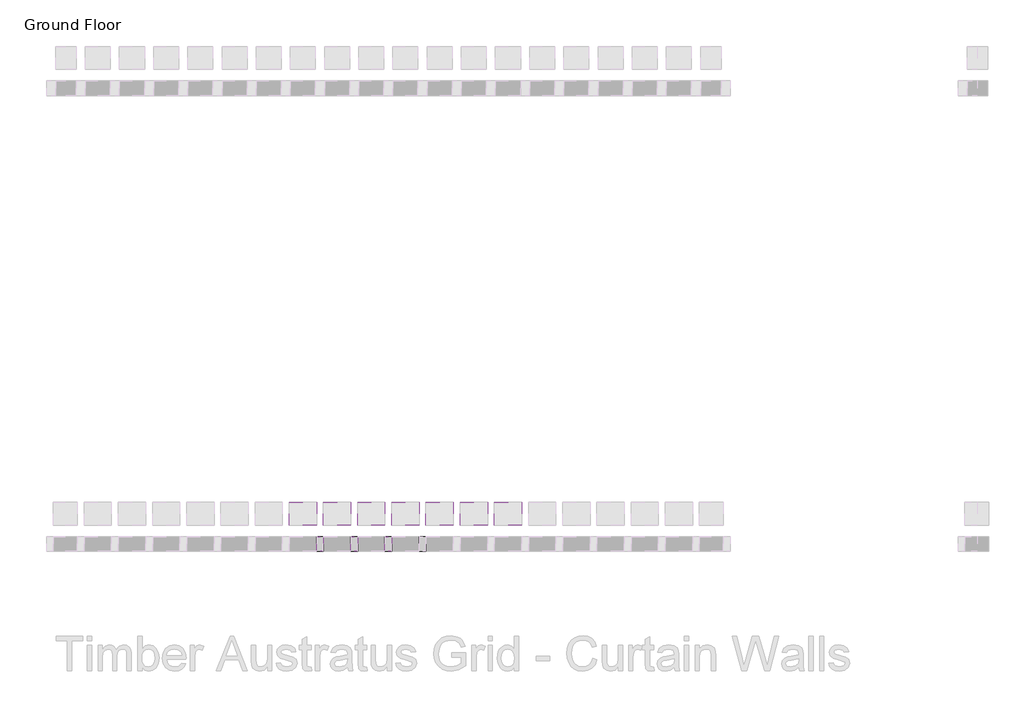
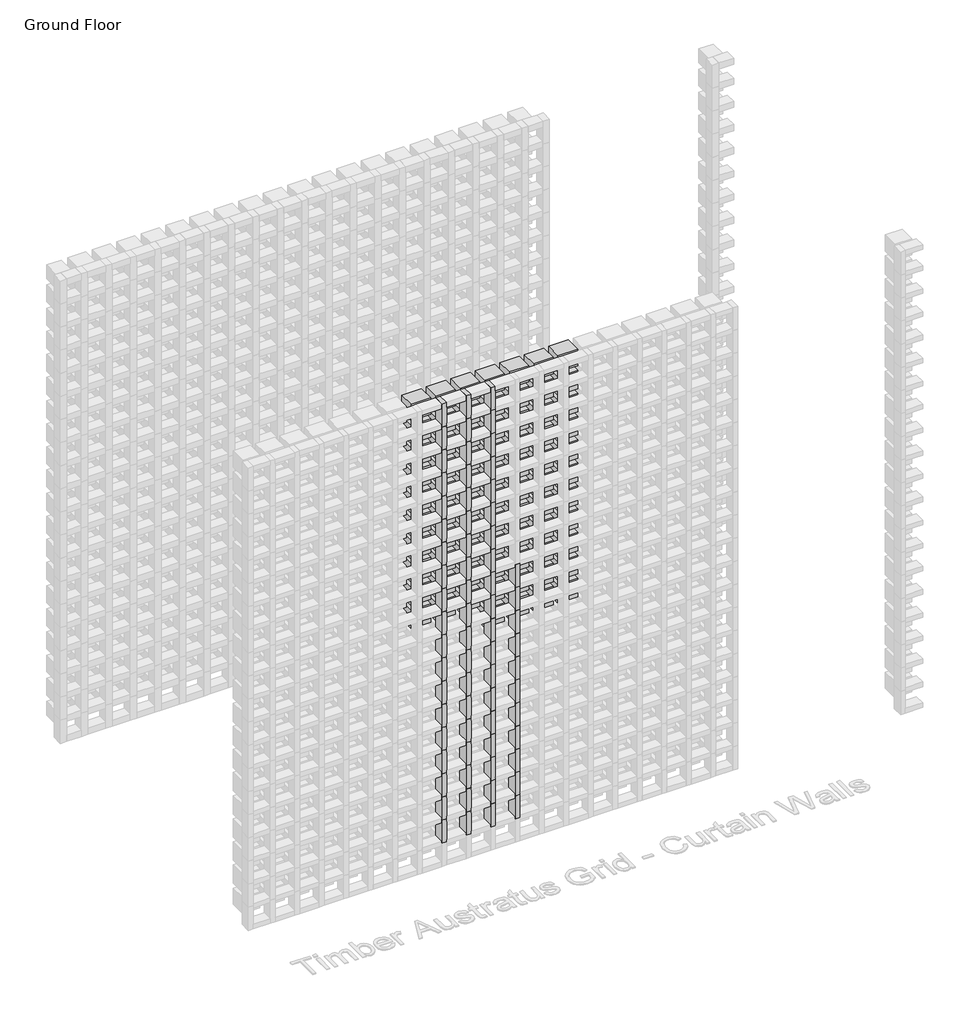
# One storey, part 50 of 350: 74 plates, 68 members.
"""IFC4 building model written with IfcOpenShell, lengths in millimetres."""

from ifc_helpers import new_model, si_unit, origin, place, context, project, spatial, transform, mapped, element, save
from components import rectangular_mullion_5b501421, empty_system_panel_empty_a57e421f, empty_system_panel_empty_fe50b430

model = new_model("IFC4")

# Units and contexts
model_context = context("Model", 3, world=origin())
ifc_project = project(units=[si_unit("LENGTHUNIT", "METRE", prefix="MILLI")], contexts=[model_context])

# Site, building, storey
site = spatial("IfcSite", under=ifc_project)
building = spatial("IfcBuilding", under=site)
storey = spatial("IfcBuildingStorey", under=building, Name="Ground Floor", Elevation=0.0)

# Members
placement = place(None, origin())
rectangular_mullion_shape = rectangular_mullion_5b501421(model_context)
element("IfcMember", 1, ObjectType="Rectangular Mullion : Batten_Timber_Modinex_Austratus_Grid_Fascia_30x65_AlaskanYellowCedar", at=placement, inside=storey, context=model_context, shape_type="MappedRepresentation", body=[
    mapped(rectangular_mullion_shape, transform((3116.4361642, 38968.2978302, 150.0), x_axis=(1.0, 0.0, 0.0), y_axis=(0.0, -1.0, 0.0), z_axis=(0.0, 0.0, -1.0))),
])
element("IfcMember", 2, ObjectType="Rectangular Mullion : Batten_Timber_Modinex_Austratus_Grid_Fascia_30x65_AlaskanYellowCedar", at=placement, inside=storey, context=model_context, shape_type="MappedRepresentation", body=[
    mapped(rectangular_mullion_shape, transform((3116.4361642, 38968.2978302, 300.0), x_axis=(1.0, 0.0, 0.0), y_axis=(0.0, -1.0, 0.0), z_axis=(0.0, 0.0, -1.0))),
])
element("IfcMember", 3, ObjectType="Rectangular Mullion : Batten_Timber_Modinex_Austratus_Grid_Fascia_30x65_AlaskanYellowCedar", at=placement, inside=storey, context=model_context, shape_type="MappedRepresentation", body=[
    mapped(rectangular_mullion_shape, transform((3116.4361642, 38968.2978302, 450.0), x_axis=(1.0, 0.0, 0.0), y_axis=(0.0, -1.0, 0.0), z_axis=(0.0, 0.0, -1.0))),
])
element("IfcMember", 4, ObjectType="Rectangular Mullion : Batten_Timber_Modinex_Austratus_Grid_Fascia_30x65_AlaskanYellowCedar", at=placement, inside=storey, context=model_context, shape_type="MappedRepresentation", body=[
    mapped(rectangular_mullion_shape, transform((3116.4361642, 38968.2978302, 600.0), x_axis=(1.0, 0.0, 0.0), y_axis=(0.0, -1.0, 0.0), z_axis=(0.0, 0.0, -1.0))),
])
element("IfcMember", 5, ObjectType="Rectangular Mullion : Batten_Timber_Modinex_Austratus_Grid_Fascia_30x65_AlaskanYellowCedar", at=placement, inside=storey, context=model_context, shape_type="MappedRepresentation", body=[
    mapped(rectangular_mullion_shape, transform((3116.4361642, 38968.2978302, 750.0), x_axis=(1.0, 0.0, 0.0), y_axis=(0.0, -1.0, 0.0), z_axis=(0.0, 0.0, -1.0))),
])
element("IfcMember", 6, ObjectType="Rectangular Mullion : Batten_Timber_Modinex_Austratus_Grid_Fascia_30x65_AlaskanYellowCedar", at=placement, inside=storey, context=model_context, shape_type="MappedRepresentation", body=[
    mapped(rectangular_mullion_shape, transform((3116.4361642, 38968.2978302, 900.0), x_axis=(1.0, 0.0, 0.0), y_axis=(0.0, -1.0, 0.0), z_axis=(0.0, 0.0, -1.0))),
])
element("IfcMember", 7, ObjectType="Rectangular Mullion : Batten_Timber_Modinex_Austratus_Grid_Fascia_30x65_AlaskanYellowCedar", at=placement, inside=storey, context=model_context, shape_type="MappedRepresentation", body=[
    mapped(rectangular_mullion_shape, transform((3116.4361642, 38968.2978302, 1050.0), x_axis=(1.0, 0.0, 0.0), y_axis=(0.0, -1.0, 0.0), z_axis=(0.0, 0.0, -1.0))),
])
element("IfcMember", 8, ObjectType="Rectangular Mullion : Batten_Timber_Modinex_Austratus_Grid_Fascia_30x65_AlaskanYellowCedar", at=placement, inside=storey, context=model_context, shape_type="MappedRepresentation", body=[
    mapped(rectangular_mullion_shape, transform((3116.4361642, 38968.2978302, 1200.0), x_axis=(1.0, 0.0, 0.0), y_axis=(0.0, -1.0, 0.0), z_axis=(0.0, 0.0, -1.0))),
])
element("IfcMember", 9, ObjectType="Rectangular Mullion : Batten_Timber_Modinex_Austratus_Grid_Fascia_30x65_AlaskanYellowCedar", at=placement, inside=storey, context=model_context, shape_type="MappedRepresentation", body=[
    mapped(rectangular_mullion_shape, transform((3116.4361642, 38968.2978302, 1350.0), x_axis=(1.0, 0.0, 0.0), y_axis=(0.0, -1.0, 0.0), z_axis=(0.0, 0.0, -1.0))),
])
element("IfcMember", 10, ObjectType="Rectangular Mullion : Batten_Timber_Modinex_Austratus_Grid_Fascia_30x65_AlaskanYellowCedar", at=placement, inside=storey, context=model_context, shape_type="MappedRepresentation", body=[
    mapped(rectangular_mullion_shape, transform((3116.4361642, 38968.2978302, 1500.0), x_axis=(1.0, 0.0, 0.0), y_axis=(0.0, -1.0, 0.0), z_axis=(0.0, 0.0, -1.0))),
])
element("IfcMember", 11, ObjectType="Rectangular Mullion : Batten_Timber_Modinex_Austratus_Grid_Fascia_30x65_AlaskanYellowCedar", at=placement, inside=storey, context=model_context, shape_type="MappedRepresentation", body=[
    mapped(rectangular_mullion_shape, transform((3116.4361642, 38968.2978302, 1650.0), x_axis=(1.0, 0.0, 0.0), y_axis=(0.0, -1.0, 0.0), z_axis=(0.0, 0.0, -1.0))),
])
element("IfcMember", 12, ObjectType="Rectangular Mullion : Batten_Timber_Modinex_Austratus_Grid_Fascia_30x65_AlaskanYellowCedar", at=placement, inside=storey, context=model_context, shape_type="MappedRepresentation", body=[
    mapped(rectangular_mullion_shape, transform((3116.4361642, 38968.2978302, 1800.0), x_axis=(1.0, 0.0, 0.0), y_axis=(0.0, -1.0, 0.0), z_axis=(0.0, 0.0, -1.0))),
])
element("IfcMember", 13, ObjectType="Rectangular Mullion : Batten_Timber_Modinex_Austratus_Grid_Fascia_30x65_AlaskanYellowCedar", at=placement, inside=storey, context=model_context, shape_type="MappedRepresentation", body=[
    mapped(rectangular_mullion_shape, transform((3116.4361642, 38968.2978302, 1950.0), x_axis=(1.0, 0.0, 0.0), y_axis=(0.0, -1.0, 0.0), z_axis=(0.0, 0.0, -1.0))),
])
element("IfcMember", 14, ObjectType="Rectangular Mullion : Batten_Timber_Modinex_Austratus_Grid_Fascia_30x65_AlaskanYellowCedar", at=placement, inside=storey, context=model_context, shape_type="MappedRepresentation", body=[
    mapped(rectangular_mullion_shape, transform((3116.4361642, 38968.2978302, 2100.0), x_axis=(1.0, 0.0, 0.0), y_axis=(0.0, -1.0, 0.0), z_axis=(0.0, 0.0, -1.0))),
])
element("IfcMember", 15, ObjectType="Rectangular Mullion : Batten_Timber_Modinex_Austratus_Grid_Fascia_30x65_AlaskanYellowCedar", at=placement, inside=storey, context=model_context, shape_type="MappedRepresentation", body=[
    mapped(rectangular_mullion_shape, transform((3116.4361642, 38968.2978302, 2250.0), x_axis=(1.0, 0.0, 0.0), y_axis=(0.0, -1.0, 0.0), z_axis=(0.0, 0.0, -1.0))),
])
element("IfcMember", 16, ObjectType="Rectangular Mullion : Batten_Timber_Modinex_Austratus_Grid_Fascia_30x65_AlaskanYellowCedar", at=placement, inside=storey, context=model_context, shape_type="MappedRepresentation", body=[
    mapped(rectangular_mullion_shape, transform((3116.4361642, 38968.2978302, 2400.0), x_axis=(1.0, 0.0, 0.0), y_axis=(0.0, -1.0, 0.0), z_axis=(0.0, 0.0, -1.0))),
])
element("IfcMember", 17, ObjectType="Rectangular Mullion : Batten_Timber_Modinex_Austratus_Grid_Fascia_30x65_AlaskanYellowCedar", at=placement, inside=storey, context=model_context, shape_type="MappedRepresentation", body=[
    mapped(rectangular_mullion_shape, transform((3116.4361642, 38968.2978302, 2550.0), x_axis=(1.0, 0.0, 0.0), y_axis=(0.0, -1.0, 0.0), z_axis=(0.0, 0.0, -1.0))),
])
element("IfcMember", 18, ObjectType="Rectangular Mullion : Batten_Timber_Modinex_Austratus_Grid_Fascia_30x65_AlaskanYellowCedar", at=placement, inside=storey, context=model_context, shape_type="MappedRepresentation", body=[
    mapped(rectangular_mullion_shape, transform((3116.4361642, 38968.2978302, 2700.0), x_axis=(1.0, 0.0, 0.0), y_axis=(0.0, -1.0, 0.0), z_axis=(0.0, 0.0, -1.0))),
])
element("IfcMember", 19, ObjectType="Rectangular Mullion : Batten_Timber_Modinex_Austratus_Grid_Fascia_30x65_AlaskanYellowCedar", at=placement, inside=storey, context=model_context, shape_type="MappedRepresentation", body=[
    mapped(rectangular_mullion_shape, transform((3266.4361642, 38968.2978302, 150.0), x_axis=(1.0, 0.0, 0.0), y_axis=(0.0, -1.0, 0.0), z_axis=(0.0, 0.0, -1.0))),
])
element("IfcMember", 20, ObjectType="Rectangular Mullion : Batten_Timber_Modinex_Austratus_Grid_Fascia_30x65_AlaskanYellowCedar", at=placement, inside=storey, context=model_context, shape_type="MappedRepresentation", body=[
    mapped(rectangular_mullion_shape, transform((3266.4361642, 38968.2978302, 300.0), x_axis=(1.0, 0.0, 0.0), y_axis=(0.0, -1.0, 0.0), z_axis=(0.0, 0.0, -1.0))),
])
element("IfcMember", 21, ObjectType="Rectangular Mullion : Batten_Timber_Modinex_Austratus_Grid_Fascia_30x65_AlaskanYellowCedar", at=placement, inside=storey, context=model_context, shape_type="MappedRepresentation", body=[
    mapped(rectangular_mullion_shape, transform((3266.4361642, 38968.2978302, 450.0), x_axis=(1.0, 0.0, 0.0), y_axis=(0.0, -1.0, 0.0), z_axis=(0.0, 0.0, -1.0))),
])
element("IfcMember", 22, ObjectType="Rectangular Mullion : Batten_Timber_Modinex_Austratus_Grid_Fascia_30x65_AlaskanYellowCedar", at=placement, inside=storey, context=model_context, shape_type="MappedRepresentation", body=[
    mapped(rectangular_mullion_shape, transform((3266.4361642, 38968.2978302, 600.0), x_axis=(1.0, 0.0, 0.0), y_axis=(0.0, -1.0, 0.0), z_axis=(0.0, 0.0, -1.0))),
])
element("IfcMember", 23, ObjectType="Rectangular Mullion : Batten_Timber_Modinex_Austratus_Grid_Fascia_30x65_AlaskanYellowCedar", at=placement, inside=storey, context=model_context, shape_type="MappedRepresentation", body=[
    mapped(rectangular_mullion_shape, transform((3266.4361642, 38968.2978302, 750.0), x_axis=(1.0, 0.0, 0.0), y_axis=(0.0, -1.0, 0.0), z_axis=(0.0, 0.0, -1.0))),
])
element("IfcMember", 24, ObjectType="Rectangular Mullion : Batten_Timber_Modinex_Austratus_Grid_Fascia_30x65_AlaskanYellowCedar", at=placement, inside=storey, context=model_context, shape_type="MappedRepresentation", body=[
    mapped(rectangular_mullion_shape, transform((3266.4361642, 38968.2978302, 900.0), x_axis=(1.0, 0.0, 0.0), y_axis=(0.0, -1.0, 0.0), z_axis=(0.0, 0.0, -1.0))),
])
element("IfcMember", 25, ObjectType="Rectangular Mullion : Batten_Timber_Modinex_Austratus_Grid_Fascia_30x65_AlaskanYellowCedar", at=placement, inside=storey, context=model_context, shape_type="MappedRepresentation", body=[
    mapped(rectangular_mullion_shape, transform((3266.4361642, 38968.2978302, 1050.0), x_axis=(1.0, 0.0, 0.0), y_axis=(0.0, -1.0, 0.0), z_axis=(0.0, 0.0, -1.0))),
])
element("IfcMember", 26, ObjectType="Rectangular Mullion : Batten_Timber_Modinex_Austratus_Grid_Fascia_30x65_AlaskanYellowCedar", at=placement, inside=storey, context=model_context, shape_type="MappedRepresentation", body=[
    mapped(rectangular_mullion_shape, transform((3266.4361642, 38968.2978302, 1200.0), x_axis=(1.0, 0.0, 0.0), y_axis=(0.0, -1.0, 0.0), z_axis=(0.0, 0.0, -1.0))),
])
element("IfcMember", 27, ObjectType="Rectangular Mullion : Batten_Timber_Modinex_Austratus_Grid_Fascia_30x65_AlaskanYellowCedar", at=placement, inside=storey, context=model_context, shape_type="MappedRepresentation", body=[
    mapped(rectangular_mullion_shape, transform((3266.4361642, 38968.2978302, 1350.0), x_axis=(1.0, 0.0, 0.0), y_axis=(0.0, -1.0, 0.0), z_axis=(0.0, 0.0, -1.0))),
])
element("IfcMember", 28, ObjectType="Rectangular Mullion : Batten_Timber_Modinex_Austratus_Grid_Fascia_30x65_AlaskanYellowCedar", at=placement, inside=storey, context=model_context, shape_type="MappedRepresentation", body=[
    mapped(rectangular_mullion_shape, transform((3266.4361642, 38968.2978302, 1500.0), x_axis=(1.0, 0.0, 0.0), y_axis=(0.0, -1.0, 0.0), z_axis=(0.0, 0.0, -1.0))),
])
element("IfcMember", 29, ObjectType="Rectangular Mullion : Batten_Timber_Modinex_Austratus_Grid_Fascia_30x65_AlaskanYellowCedar", at=placement, inside=storey, context=model_context, shape_type="MappedRepresentation", body=[
    mapped(rectangular_mullion_shape, transform((3266.4361642, 38968.2978302, 1650.0), x_axis=(1.0, 0.0, 0.0), y_axis=(0.0, -1.0, 0.0), z_axis=(0.0, 0.0, -1.0))),
])
element("IfcMember", 30, ObjectType="Rectangular Mullion : Batten_Timber_Modinex_Austratus_Grid_Fascia_30x65_AlaskanYellowCedar", at=placement, inside=storey, context=model_context, shape_type="MappedRepresentation", body=[
    mapped(rectangular_mullion_shape, transform((3266.4361642, 38968.2978302, 1800.0), x_axis=(1.0, 0.0, 0.0), y_axis=(0.0, -1.0, 0.0), z_axis=(0.0, 0.0, -1.0))),
])
element("IfcMember", 31, ObjectType="Rectangular Mullion : Batten_Timber_Modinex_Austratus_Grid_Fascia_30x65_AlaskanYellowCedar", at=placement, inside=storey, context=model_context, shape_type="MappedRepresentation", body=[
    mapped(rectangular_mullion_shape, transform((3266.4361642, 38968.2978302, 1950.0), x_axis=(1.0, 0.0, 0.0), y_axis=(0.0, -1.0, 0.0), z_axis=(0.0, 0.0, -1.0))),
])
element("IfcMember", 32, ObjectType="Rectangular Mullion : Batten_Timber_Modinex_Austratus_Grid_Fascia_30x65_AlaskanYellowCedar", at=placement, inside=storey, context=model_context, shape_type="MappedRepresentation", body=[
    mapped(rectangular_mullion_shape, transform((3266.4361642, 38968.2978302, 2100.0), x_axis=(1.0, 0.0, 0.0), y_axis=(0.0, -1.0, 0.0), z_axis=(0.0, 0.0, -1.0))),
])
element("IfcMember", 33, ObjectType="Rectangular Mullion : Batten_Timber_Modinex_Austratus_Grid_Fascia_30x65_AlaskanYellowCedar", at=placement, inside=storey, context=model_context, shape_type="MappedRepresentation", body=[
    mapped(rectangular_mullion_shape, transform((3266.4361642, 38968.2978302, 2250.0), x_axis=(1.0, 0.0, 0.0), y_axis=(0.0, -1.0, 0.0), z_axis=(0.0, 0.0, -1.0))),
])
element("IfcMember", 34, ObjectType="Rectangular Mullion : Batten_Timber_Modinex_Austratus_Grid_Fascia_30x65_AlaskanYellowCedar", at=placement, inside=storey, context=model_context, shape_type="MappedRepresentation", body=[
    mapped(rectangular_mullion_shape, transform((3266.4361642, 38968.2978302, 2400.0), x_axis=(1.0, 0.0, 0.0), y_axis=(0.0, -1.0, 0.0), z_axis=(0.0, 0.0, -1.0))),
])
element("IfcMember", 35, ObjectType="Rectangular Mullion : Batten_Timber_Modinex_Austratus_Grid_Fascia_30x65_AlaskanYellowCedar", at=placement, inside=storey, context=model_context, shape_type="MappedRepresentation", body=[
    mapped(rectangular_mullion_shape, transform((3266.4361642, 38968.2978302, 2550.0), x_axis=(1.0, 0.0, 0.0), y_axis=(0.0, -1.0, 0.0), z_axis=(0.0, 0.0, -1.0))),
])
element("IfcMember", 36, ObjectType="Rectangular Mullion : Batten_Timber_Modinex_Austratus_Grid_Fascia_30x65_AlaskanYellowCedar", at=placement, inside=storey, context=model_context, shape_type="MappedRepresentation", body=[
    mapped(rectangular_mullion_shape, transform((3266.4361642, 38968.2978302, 2700.0), x_axis=(1.0, 0.0, 0.0), y_axis=(0.0, -1.0, 0.0), z_axis=(0.0, 0.0, -1.0))),
])
element("IfcMember", 37, ObjectType="Rectangular Mullion : Batten_Timber_Modinex_Austratus_Grid_Fascia_30x65_AlaskanYellowCedar", at=placement, inside=storey, context=model_context, shape_type="MappedRepresentation", body=[
    mapped(rectangular_mullion_shape, transform((3416.4361642, 38968.2978302, 150.0), x_axis=(1.0, 0.0, 0.0), y_axis=(0.0, -1.0, 0.0), z_axis=(0.0, 0.0, -1.0))),
])
element("IfcMember", 38, ObjectType="Rectangular Mullion : Batten_Timber_Modinex_Austratus_Grid_Fascia_30x65_AlaskanYellowCedar", at=placement, inside=storey, context=model_context, shape_type="MappedRepresentation", body=[
    mapped(rectangular_mullion_shape, transform((3416.4361642, 38968.2978302, 300.0), x_axis=(1.0, 0.0, 0.0), y_axis=(0.0, -1.0, 0.0), z_axis=(0.0, 0.0, -1.0))),
])
element("IfcMember", 39, ObjectType="Rectangular Mullion : Batten_Timber_Modinex_Austratus_Grid_Fascia_30x65_AlaskanYellowCedar", at=placement, inside=storey, context=model_context, shape_type="MappedRepresentation", body=[
    mapped(rectangular_mullion_shape, transform((3416.4361642, 38968.2978302, 450.0), x_axis=(1.0, 0.0, 0.0), y_axis=(0.0, -1.0, 0.0), z_axis=(0.0, 0.0, -1.0))),
])
element("IfcMember", 40, ObjectType="Rectangular Mullion : Batten_Timber_Modinex_Austratus_Grid_Fascia_30x65_AlaskanYellowCedar", at=placement, inside=storey, context=model_context, shape_type="MappedRepresentation", body=[
    mapped(rectangular_mullion_shape, transform((3416.4361642, 38968.2978302, 600.0), x_axis=(1.0, 0.0, 0.0), y_axis=(0.0, -1.0, 0.0), z_axis=(0.0, 0.0, -1.0))),
])
element("IfcMember", 41, ObjectType="Rectangular Mullion : Batten_Timber_Modinex_Austratus_Grid_Fascia_30x65_AlaskanYellowCedar", at=placement, inside=storey, context=model_context, shape_type="MappedRepresentation", body=[
    mapped(rectangular_mullion_shape, transform((3416.4361642, 38968.2978302, 750.0), x_axis=(1.0, 0.0, 0.0), y_axis=(0.0, -1.0, 0.0), z_axis=(0.0, 0.0, -1.0))),
])
element("IfcMember", 42, ObjectType="Rectangular Mullion : Batten_Timber_Modinex_Austratus_Grid_Fascia_30x65_AlaskanYellowCedar", at=placement, inside=storey, context=model_context, shape_type="MappedRepresentation", body=[
    mapped(rectangular_mullion_shape, transform((3416.4361642, 38968.2978302, 900.0), x_axis=(1.0, 0.0, 0.0), y_axis=(0.0, -1.0, 0.0), z_axis=(0.0, 0.0, -1.0))),
])
element("IfcMember", 43, ObjectType="Rectangular Mullion : Batten_Timber_Modinex_Austratus_Grid_Fascia_30x65_AlaskanYellowCedar", at=placement, inside=storey, context=model_context, shape_type="MappedRepresentation", body=[
    mapped(rectangular_mullion_shape, transform((3416.4361642, 38968.2978302, 1050.0), x_axis=(1.0, 0.0, 0.0), y_axis=(0.0, -1.0, 0.0), z_axis=(0.0, 0.0, -1.0))),
])
element("IfcMember", 44, ObjectType="Rectangular Mullion : Batten_Timber_Modinex_Austratus_Grid_Fascia_30x65_AlaskanYellowCedar", at=placement, inside=storey, context=model_context, shape_type="MappedRepresentation", body=[
    mapped(rectangular_mullion_shape, transform((3416.4361642, 38968.2978302, 1200.0), x_axis=(1.0, 0.0, 0.0), y_axis=(0.0, -1.0, 0.0), z_axis=(0.0, 0.0, -1.0))),
])
element("IfcMember", 45, ObjectType="Rectangular Mullion : Batten_Timber_Modinex_Austratus_Grid_Fascia_30x65_AlaskanYellowCedar", at=placement, inside=storey, context=model_context, shape_type="MappedRepresentation", body=[
    mapped(rectangular_mullion_shape, transform((3416.4361642, 38968.2978302, 1350.0), x_axis=(1.0, 0.0, 0.0), y_axis=(0.0, -1.0, 0.0), z_axis=(0.0, 0.0, -1.0))),
])
element("IfcMember", 46, ObjectType="Rectangular Mullion : Batten_Timber_Modinex_Austratus_Grid_Fascia_30x65_AlaskanYellowCedar", at=placement, inside=storey, context=model_context, shape_type="MappedRepresentation", body=[
    mapped(rectangular_mullion_shape, transform((3416.4361642, 38968.2978302, 1500.0), x_axis=(1.0, 0.0, 0.0), y_axis=(0.0, -1.0, 0.0), z_axis=(0.0, 0.0, -1.0))),
])
element("IfcMember", 47, ObjectType="Rectangular Mullion : Batten_Timber_Modinex_Austratus_Grid_Fascia_30x65_AlaskanYellowCedar", at=placement, inside=storey, context=model_context, shape_type="MappedRepresentation", body=[
    mapped(rectangular_mullion_shape, transform((3416.4361642, 38968.2978302, 1650.0), x_axis=(1.0, 0.0, 0.0), y_axis=(0.0, -1.0, 0.0), z_axis=(0.0, 0.0, -1.0))),
])
element("IfcMember", 48, ObjectType="Rectangular Mullion : Batten_Timber_Modinex_Austratus_Grid_Fascia_30x65_AlaskanYellowCedar", at=placement, inside=storey, context=model_context, shape_type="MappedRepresentation", body=[
    mapped(rectangular_mullion_shape, transform((3416.4361642, 38968.2978302, 1800.0), x_axis=(1.0, 0.0, 0.0), y_axis=(0.0, -1.0, 0.0), z_axis=(0.0, 0.0, -1.0))),
])
element("IfcMember", 49, ObjectType="Rectangular Mullion : Batten_Timber_Modinex_Austratus_Grid_Fascia_30x65_AlaskanYellowCedar", at=placement, inside=storey, context=model_context, shape_type="MappedRepresentation", body=[
    mapped(rectangular_mullion_shape, transform((3416.4361642, 38968.2978302, 1950.0), x_axis=(1.0, 0.0, 0.0), y_axis=(0.0, -1.0, 0.0), z_axis=(0.0, 0.0, -1.0))),
])
element("IfcMember", 50, ObjectType="Rectangular Mullion : Batten_Timber_Modinex_Austratus_Grid_Fascia_30x65_AlaskanYellowCedar", at=placement, inside=storey, context=model_context, shape_type="MappedRepresentation", body=[
    mapped(rectangular_mullion_shape, transform((3416.4361642, 38968.2978302, 2100.0), x_axis=(1.0, 0.0, 0.0), y_axis=(0.0, -1.0, 0.0), z_axis=(0.0, 0.0, -1.0))),
])
element("IfcMember", 51, ObjectType="Rectangular Mullion : Batten_Timber_Modinex_Austratus_Grid_Fascia_30x65_AlaskanYellowCedar", at=placement, inside=storey, context=model_context, shape_type="MappedRepresentation", body=[
    mapped(rectangular_mullion_shape, transform((3416.4361642, 38968.2978302, 2250.0), x_axis=(1.0, 0.0, 0.0), y_axis=(0.0, -1.0, 0.0), z_axis=(0.0, 0.0, -1.0))),
])
element("IfcMember", 52, ObjectType="Rectangular Mullion : Batten_Timber_Modinex_Austratus_Grid_Fascia_30x65_AlaskanYellowCedar", at=placement, inside=storey, context=model_context, shape_type="MappedRepresentation", body=[
    mapped(rectangular_mullion_shape, transform((3416.4361642, 38968.2978302, 2400.0), x_axis=(1.0, 0.0, 0.0), y_axis=(0.0, -1.0, 0.0), z_axis=(0.0, 0.0, -1.0))),
])
element("IfcMember", 53, ObjectType="Rectangular Mullion : Batten_Timber_Modinex_Austratus_Grid_Fascia_30x65_AlaskanYellowCedar", at=placement, inside=storey, context=model_context, shape_type="MappedRepresentation", body=[
    mapped(rectangular_mullion_shape, transform((3416.4361642, 38968.2978302, 2550.0), x_axis=(1.0, 0.0, 0.0), y_axis=(0.0, -1.0, 0.0), z_axis=(0.0, 0.0, -1.0))),
])
element("IfcMember", 54, ObjectType="Rectangular Mullion : Batten_Timber_Modinex_Austratus_Grid_Fascia_30x65_AlaskanYellowCedar", at=placement, inside=storey, context=model_context, shape_type="MappedRepresentation", body=[
    mapped(rectangular_mullion_shape, transform((3416.4361642, 38968.2978302, 2700.0), x_axis=(1.0, 0.0, 0.0), y_axis=(0.0, -1.0, 0.0), z_axis=(0.0, 0.0, -1.0))),
])
element("IfcMember", 55, ObjectType="Rectangular Mullion : Batten_Timber_Modinex_Austratus_Grid_Fascia_30x65_AlaskanYellowCedar", at=placement, inside=storey, context=model_context, shape_type="MappedRepresentation", body=[
    mapped(rectangular_mullion_shape, transform((3566.4361642, 38968.2978302, 150.0), x_axis=(1.0, 0.0, 0.0), y_axis=(0.0, -1.0, 0.0), z_axis=(0.0, 0.0, -1.0))),
])
element("IfcMember", 56, ObjectType="Rectangular Mullion : Batten_Timber_Modinex_Austratus_Grid_Fascia_30x65_AlaskanYellowCedar", at=placement, inside=storey, context=model_context, shape_type="MappedRepresentation", body=[
    mapped(rectangular_mullion_shape, transform((3566.4361642, 38968.2978302, 300.0), x_axis=(1.0, 0.0, 0.0), y_axis=(0.0, -1.0, 0.0), z_axis=(0.0, 0.0, -1.0))),
])
element("IfcMember", 57, ObjectType="Rectangular Mullion : Batten_Timber_Modinex_Austratus_Grid_Fascia_30x65_AlaskanYellowCedar", at=placement, inside=storey, context=model_context, shape_type="MappedRepresentation", body=[
    mapped(rectangular_mullion_shape, transform((3566.4361642, 38968.2978302, 450.0), x_axis=(1.0, 0.0, 0.0), y_axis=(0.0, -1.0, 0.0), z_axis=(0.0, 0.0, -1.0))),
])
element("IfcMember", 58, ObjectType="Rectangular Mullion : Batten_Timber_Modinex_Austratus_Grid_Fascia_30x65_AlaskanYellowCedar", at=placement, inside=storey, context=model_context, shape_type="MappedRepresentation", body=[
    mapped(rectangular_mullion_shape, transform((3566.4361642, 38968.2978302, 600.0), x_axis=(1.0, 0.0, 0.0), y_axis=(0.0, -1.0, 0.0), z_axis=(0.0, 0.0, -1.0))),
])
element("IfcMember", 59, ObjectType="Rectangular Mullion : Batten_Timber_Modinex_Austratus_Grid_Fascia_30x65_AlaskanYellowCedar", at=placement, inside=storey, context=model_context, shape_type="MappedRepresentation", body=[
    mapped(rectangular_mullion_shape, transform((3566.4361642, 38968.2978302, 750.0), x_axis=(1.0, 0.0, 0.0), y_axis=(0.0, -1.0, 0.0), z_axis=(0.0, 0.0, -1.0))),
])
element("IfcMember", 60, ObjectType="Rectangular Mullion : Batten_Timber_Modinex_Austratus_Grid_Fascia_30x65_AlaskanYellowCedar", at=placement, inside=storey, context=model_context, shape_type="MappedRepresentation", body=[
    mapped(rectangular_mullion_shape, transform((3566.4361642, 38968.2978302, 900.0), x_axis=(1.0, 0.0, 0.0), y_axis=(0.0, -1.0, 0.0), z_axis=(0.0, 0.0, -1.0))),
])
element("IfcMember", 61, ObjectType="Rectangular Mullion : Batten_Timber_Modinex_Austratus_Grid_Fascia_30x65_AlaskanYellowCedar", at=placement, inside=storey, context=model_context, shape_type="MappedRepresentation", body=[
    mapped(rectangular_mullion_shape, transform((3566.4361642, 38968.2978302, 1050.0), x_axis=(1.0, 0.0, 0.0), y_axis=(0.0, -1.0, 0.0), z_axis=(0.0, 0.0, -1.0))),
])
element("IfcMember", 62, ObjectType="Rectangular Mullion : Batten_Timber_Modinex_Austratus_Grid_Fascia_30x65_AlaskanYellowCedar", at=placement, inside=storey, context=model_context, shape_type="MappedRepresentation", body=[
    mapped(rectangular_mullion_shape, transform((3566.4361642, 38968.2978302, 1200.0), x_axis=(1.0, 0.0, 0.0), y_axis=(0.0, -1.0, 0.0), z_axis=(0.0, 0.0, -1.0))),
])
element("IfcMember", 63, ObjectType="Rectangular Mullion : Batten_Timber_Modinex_Austratus_Grid_Fascia_30x65_AlaskanYellowCedar", at=placement, inside=storey, context=model_context, shape_type="MappedRepresentation", body=[
    mapped(rectangular_mullion_shape, transform((3566.4361642, 38968.2978302, 1350.0), x_axis=(1.0, 0.0, 0.0), y_axis=(0.0, -1.0, 0.0), z_axis=(0.0, 0.0, -1.0))),
])
element("IfcMember", 64, ObjectType="Rectangular Mullion : Batten_Timber_Modinex_Austratus_Grid_Fascia_30x65_AlaskanYellowCedar", at=placement, inside=storey, context=model_context, shape_type="MappedRepresentation", body=[
    mapped(rectangular_mullion_shape, transform((3566.4361642, 38968.2978302, 1500.0), x_axis=(1.0, 0.0, 0.0), y_axis=(0.0, -1.0, 0.0), z_axis=(0.0, 0.0, -1.0))),
])
element("IfcMember", 65, ObjectType="Rectangular Mullion : Batten_Timber_Modinex_Austratus_Grid_Fascia_30x65_AlaskanYellowCedar", at=placement, inside=storey, context=model_context, shape_type="MappedRepresentation", body=[
    mapped(rectangular_mullion_shape, transform((3566.4361642, 38968.2978302, 1650.0), x_axis=(1.0, 0.0, 0.0), y_axis=(0.0, -1.0, 0.0), z_axis=(0.0, 0.0, -1.0))),
])
element("IfcMember", 66, ObjectType="Rectangular Mullion : Batten_Timber_Modinex_Austratus_Grid_Fascia_30x65_AlaskanYellowCedar", at=placement, inside=storey, context=model_context, shape_type="MappedRepresentation", body=[
    mapped(rectangular_mullion_shape, transform((3116.4361642, 38968.2978302, 2850.0), x_axis=(1.0, 0.0, 0.0), y_axis=(0.0, -1.0, 0.0), z_axis=(0.0, 0.0, -1.0))),
])
element("IfcMember", 67, ObjectType="Rectangular Mullion : Batten_Timber_Modinex_Austratus_Grid_Fascia_30x65_AlaskanYellowCedar", at=placement, inside=storey, context=model_context, shape_type="MappedRepresentation", body=[
    mapped(rectangular_mullion_shape, transform((3266.4361642, 38968.2978302, 2850.0), x_axis=(1.0, 0.0, 0.0), y_axis=(0.0, -1.0, 0.0), z_axis=(0.0, 0.0, -1.0))),
])
element("IfcMember", 68, ObjectType="Rectangular Mullion : Batten_Timber_Modinex_Austratus_Grid_Fascia_30x65_AlaskanYellowCedar", at=placement, inside=storey, context=model_context, shape_type="MappedRepresentation", body=[
    mapped(rectangular_mullion_shape, transform((3416.4361642, 38968.2978302, 2850.0), x_axis=(1.0, 0.0, 0.0), y_axis=(0.0, -1.0, 0.0), z_axis=(0.0, 0.0, -1.0))),
])

# Plates
empty_system_panel_empty_shape = empty_system_panel_empty_a57e421f(model_context)
element("IfcPlate", 69, ObjectType="Empty System Panel : Empty", at=placement, inside=storey, context=model_context, shape_type="MappedRepresentation", body=[
    mapped(empty_system_panel_empty_shape, transform((3491.4361642, 38968.2978302, 1365.0), x_axis=(1.0, 0.0, 0.0), y_axis=(0.0, 1.0, 0.0), z_axis=(0.0, 0.0, 1.0))),
])
element("IfcPlate", 70, ObjectType="Empty System Panel : Empty", at=placement, inside=storey, context=model_context, shape_type="MappedRepresentation", body=[
    mapped(empty_system_panel_empty_shape, transform((3641.4361642, 38968.2978302, 1365.0), x_axis=(1.0, 0.0, 0.0), y_axis=(0.0, 1.0, 0.0), z_axis=(0.0, 0.0, 1.0))),
])
element("IfcPlate", 71, ObjectType="Empty System Panel : Empty", at=placement, inside=storey, context=model_context, shape_type="MappedRepresentation", body=[
    mapped(empty_system_panel_empty_shape, transform((3791.4361642, 38968.2978302, 1365.0), x_axis=(1.0, 0.0, 0.0), y_axis=(0.0, 1.0, 0.0), z_axis=(0.0, 0.0, 1.0))),
])
element("IfcPlate", 72, ObjectType="Empty System Panel : Empty", at=placement, inside=storey, context=model_context, shape_type="MappedRepresentation", body=[
    mapped(empty_system_panel_empty_shape, transform((3941.4361642, 38968.2978302, 1365.0), x_axis=(1.0, 0.0, 0.0), y_axis=(0.0, 1.0, 0.0), z_axis=(0.0, 0.0, 1.0))),
])
element("IfcPlate", 73, ObjectType="Empty System Panel : Empty", at=placement, inside=storey, context=model_context, shape_type="MappedRepresentation", body=[
    mapped(empty_system_panel_empty_shape, transform((3041.4361642, 38968.2978302, 1515.0), x_axis=(1.0, 0.0, 0.0), y_axis=(0.0, 1.0, 0.0), z_axis=(0.0, 0.0, 1.0))),
])
element("IfcPlate", 74, ObjectType="Empty System Panel : Empty", at=placement, inside=storey, context=model_context, shape_type="MappedRepresentation", body=[
    mapped(empty_system_panel_empty_shape, transform((3191.4361642, 38968.2978302, 1515.0), x_axis=(1.0, 0.0, 0.0), y_axis=(0.0, 1.0, 0.0), z_axis=(0.0, 0.0, 1.0))),
])
element("IfcPlate", 75, ObjectType="Empty System Panel : Empty", at=placement, inside=storey, context=model_context, shape_type="MappedRepresentation", body=[
    mapped(empty_system_panel_empty_shape, transform((3341.4361642, 38968.2978302, 1515.0), x_axis=(1.0, 0.0, 0.0), y_axis=(0.0, 1.0, 0.0), z_axis=(0.0, 0.0, 1.0))),
])
element("IfcPlate", 76, ObjectType="Empty System Panel : Empty", at=placement, inside=storey, context=model_context, shape_type="MappedRepresentation", body=[
    mapped(empty_system_panel_empty_shape, transform((3491.4361642, 38968.2978302, 1515.0), x_axis=(1.0, 0.0, 0.0), y_axis=(0.0, 1.0, 0.0), z_axis=(0.0, 0.0, 1.0))),
])
element("IfcPlate", 77, ObjectType="Empty System Panel : Empty", at=placement, inside=storey, context=model_context, shape_type="MappedRepresentation", body=[
    mapped(empty_system_panel_empty_shape, transform((3641.4361642, 38968.2978302, 1515.0), x_axis=(1.0, 0.0, 0.0), y_axis=(0.0, 1.0, 0.0), z_axis=(0.0, 0.0, 1.0))),
])
element("IfcPlate", 78, ObjectType="Empty System Panel : Empty", at=placement, inside=storey, context=model_context, shape_type="MappedRepresentation", body=[
    mapped(empty_system_panel_empty_shape, transform((3791.4361642, 38968.2978302, 1515.0), x_axis=(1.0, 0.0, 0.0), y_axis=(0.0, 1.0, 0.0), z_axis=(0.0, 0.0, 1.0))),
])
element("IfcPlate", 79, ObjectType="Empty System Panel : Empty", at=placement, inside=storey, context=model_context, shape_type="MappedRepresentation", body=[
    mapped(empty_system_panel_empty_shape, transform((3941.4361642, 38968.2978302, 1515.0), x_axis=(1.0, 0.0, 0.0), y_axis=(0.0, 1.0, 0.0), z_axis=(0.0, 0.0, 1.0))),
])
element("IfcPlate", 80, ObjectType="Empty System Panel : Empty", at=placement, inside=storey, context=model_context, shape_type="MappedRepresentation", body=[
    mapped(empty_system_panel_empty_shape, transform((3041.4361642, 38968.2978302, 1665.0), x_axis=(1.0, 0.0, 0.0), y_axis=(0.0, 1.0, 0.0), z_axis=(0.0, 0.0, 1.0))),
])
element("IfcPlate", 81, ObjectType="Empty System Panel : Empty", at=placement, inside=storey, context=model_context, shape_type="MappedRepresentation", body=[
    mapped(empty_system_panel_empty_shape, transform((3191.4361642, 38968.2978302, 1665.0), x_axis=(1.0, 0.0, 0.0), y_axis=(0.0, 1.0, 0.0), z_axis=(0.0, 0.0, 1.0))),
])
element("IfcPlate", 82, ObjectType="Empty System Panel : Empty", at=placement, inside=storey, context=model_context, shape_type="MappedRepresentation", body=[
    mapped(empty_system_panel_empty_shape, transform((3341.4361642, 38968.2978302, 1665.0), x_axis=(1.0, 0.0, 0.0), y_axis=(0.0, 1.0, 0.0), z_axis=(0.0, 0.0, 1.0))),
])
element("IfcPlate", 83, ObjectType="Empty System Panel : Empty", at=placement, inside=storey, context=model_context, shape_type="MappedRepresentation", body=[
    mapped(empty_system_panel_empty_shape, transform((3491.4361642, 38968.2978302, 1665.0), x_axis=(1.0, 0.0, 0.0), y_axis=(0.0, 1.0, 0.0), z_axis=(0.0, 0.0, 1.0))),
])
element("IfcPlate", 84, ObjectType="Empty System Panel : Empty", at=placement, inside=storey, context=model_context, shape_type="MappedRepresentation", body=[
    mapped(empty_system_panel_empty_shape, transform((3641.4361642, 38968.2978302, 1665.0), x_axis=(1.0, 0.0, 0.0), y_axis=(0.0, 1.0, 0.0), z_axis=(0.0, 0.0, 1.0))),
])
element("IfcPlate", 85, ObjectType="Empty System Panel : Empty", at=placement, inside=storey, context=model_context, shape_type="MappedRepresentation", body=[
    mapped(empty_system_panel_empty_shape, transform((3791.4361642, 38968.2978302, 1665.0), x_axis=(1.0, 0.0, 0.0), y_axis=(0.0, 1.0, 0.0), z_axis=(0.0, 0.0, 1.0))),
])
element("IfcPlate", 86, ObjectType="Empty System Panel : Empty", at=placement, inside=storey, context=model_context, shape_type="MappedRepresentation", body=[
    mapped(empty_system_panel_empty_shape, transform((3941.4361642, 38968.2978302, 1665.0), x_axis=(1.0, 0.0, 0.0), y_axis=(0.0, 1.0, 0.0), z_axis=(0.0, 0.0, 1.0))),
])
element("IfcPlate", 87, ObjectType="Empty System Panel : Empty", at=placement, inside=storey, context=model_context, shape_type="MappedRepresentation", body=[
    mapped(empty_system_panel_empty_shape, transform((3041.4361642, 38968.2978302, 1815.0), x_axis=(1.0, 0.0, 0.0), y_axis=(0.0, 1.0, 0.0), z_axis=(0.0, 0.0, 1.0))),
])
element("IfcPlate", 88, ObjectType="Empty System Panel : Empty", at=placement, inside=storey, context=model_context, shape_type="MappedRepresentation", body=[
    mapped(empty_system_panel_empty_shape, transform((3191.4361642, 38968.2978302, 1815.0), x_axis=(1.0, 0.0, 0.0), y_axis=(0.0, 1.0, 0.0), z_axis=(0.0, 0.0, 1.0))),
])
element("IfcPlate", 89, ObjectType="Empty System Panel : Empty", at=placement, inside=storey, context=model_context, shape_type="MappedRepresentation", body=[
    mapped(empty_system_panel_empty_shape, transform((3341.4361642, 38968.2978302, 1815.0), x_axis=(1.0, 0.0, 0.0), y_axis=(0.0, 1.0, 0.0), z_axis=(0.0, 0.0, 1.0))),
])
element("IfcPlate", 90, ObjectType="Empty System Panel : Empty", at=placement, inside=storey, context=model_context, shape_type="MappedRepresentation", body=[
    mapped(empty_system_panel_empty_shape, transform((3491.4361642, 38968.2978302, 1815.0), x_axis=(1.0, 0.0, 0.0), y_axis=(0.0, 1.0, 0.0), z_axis=(0.0, 0.0, 1.0))),
])
element("IfcPlate", 91, ObjectType="Empty System Panel : Empty", at=placement, inside=storey, context=model_context, shape_type="MappedRepresentation", body=[
    mapped(empty_system_panel_empty_shape, transform((3641.4361642, 38968.2978302, 1815.0), x_axis=(1.0, 0.0, 0.0), y_axis=(0.0, 1.0, 0.0), z_axis=(0.0, 0.0, 1.0))),
])
element("IfcPlate", 92, ObjectType="Empty System Panel : Empty", at=placement, inside=storey, context=model_context, shape_type="MappedRepresentation", body=[
    mapped(empty_system_panel_empty_shape, transform((3791.4361642, 38968.2978302, 1815.0), x_axis=(1.0, 0.0, 0.0), y_axis=(0.0, 1.0, 0.0), z_axis=(0.0, 0.0, 1.0))),
])
element("IfcPlate", 93, ObjectType="Empty System Panel : Empty", at=placement, inside=storey, context=model_context, shape_type="MappedRepresentation", body=[
    mapped(empty_system_panel_empty_shape, transform((3941.4361642, 38968.2978302, 1815.0), x_axis=(1.0, 0.0, 0.0), y_axis=(0.0, 1.0, 0.0), z_axis=(0.0, 0.0, 1.0))),
])
element("IfcPlate", 94, ObjectType="Empty System Panel : Empty", at=placement, inside=storey, context=model_context, shape_type="MappedRepresentation", body=[
    mapped(empty_system_panel_empty_shape, transform((3041.4361642, 38968.2978302, 1965.0), x_axis=(1.0, 0.0, 0.0), y_axis=(0.0, 1.0, 0.0), z_axis=(0.0, 0.0, 1.0))),
])
element("IfcPlate", 95, ObjectType="Empty System Panel : Empty", at=placement, inside=storey, context=model_context, shape_type="MappedRepresentation", body=[
    mapped(empty_system_panel_empty_shape, transform((3191.4361642, 38968.2978302, 1965.0), x_axis=(1.0, 0.0, 0.0), y_axis=(0.0, 1.0, 0.0), z_axis=(0.0, 0.0, 1.0))),
])
element("IfcPlate", 96, ObjectType="Empty System Panel : Empty", at=placement, inside=storey, context=model_context, shape_type="MappedRepresentation", body=[
    mapped(empty_system_panel_empty_shape, transform((3341.4361642, 38968.2978302, 1965.0), x_axis=(1.0, 0.0, 0.0), y_axis=(0.0, 1.0, 0.0), z_axis=(0.0, 0.0, 1.0))),
])
element("IfcPlate", 97, ObjectType="Empty System Panel : Empty", at=placement, inside=storey, context=model_context, shape_type="MappedRepresentation", body=[
    mapped(empty_system_panel_empty_shape, transform((3491.4361642, 38968.2978302, 1965.0), x_axis=(1.0, 0.0, 0.0), y_axis=(0.0, 1.0, 0.0), z_axis=(0.0, 0.0, 1.0))),
])
element("IfcPlate", 98, ObjectType="Empty System Panel : Empty", at=placement, inside=storey, context=model_context, shape_type="MappedRepresentation", body=[
    mapped(empty_system_panel_empty_shape, transform((3641.4361642, 38968.2978302, 1965.0), x_axis=(1.0, 0.0, 0.0), y_axis=(0.0, 1.0, 0.0), z_axis=(0.0, 0.0, 1.0))),
])
element("IfcPlate", 99, ObjectType="Empty System Panel : Empty", at=placement, inside=storey, context=model_context, shape_type="MappedRepresentation", body=[
    mapped(empty_system_panel_empty_shape, transform((3791.4361642, 38968.2978302, 1965.0), x_axis=(1.0, 0.0, 0.0), y_axis=(0.0, 1.0, 0.0), z_axis=(0.0, 0.0, 1.0))),
])
element("IfcPlate", 100, ObjectType="Empty System Panel : Empty", at=placement, inside=storey, context=model_context, shape_type="MappedRepresentation", body=[
    mapped(empty_system_panel_empty_shape, transform((3941.4361642, 38968.2978302, 1965.0), x_axis=(1.0, 0.0, 0.0), y_axis=(0.0, 1.0, 0.0), z_axis=(0.0, 0.0, 1.0))),
])
element("IfcPlate", 101, ObjectType="Empty System Panel : Empty", at=placement, inside=storey, context=model_context, shape_type="MappedRepresentation", body=[
    mapped(empty_system_panel_empty_shape, transform((3041.4361642, 38968.2978302, 2115.0), x_axis=(1.0, 0.0, 0.0), y_axis=(0.0, 1.0, 0.0), z_axis=(0.0, 0.0, 1.0))),
])
element("IfcPlate", 102, ObjectType="Empty System Panel : Empty", at=placement, inside=storey, context=model_context, shape_type="MappedRepresentation", body=[
    mapped(empty_system_panel_empty_shape, transform((3191.4361642, 38968.2978302, 2115.0), x_axis=(1.0, 0.0, 0.0), y_axis=(0.0, 1.0, 0.0), z_axis=(0.0, 0.0, 1.0))),
])
element("IfcPlate", 103, ObjectType="Empty System Panel : Empty", at=placement, inside=storey, context=model_context, shape_type="MappedRepresentation", body=[
    mapped(empty_system_panel_empty_shape, transform((3341.4361642, 38968.2978302, 2115.0), x_axis=(1.0, 0.0, 0.0), y_axis=(0.0, 1.0, 0.0), z_axis=(0.0, 0.0, 1.0))),
])
element("IfcPlate", 104, ObjectType="Empty System Panel : Empty", at=placement, inside=storey, context=model_context, shape_type="MappedRepresentation", body=[
    mapped(empty_system_panel_empty_shape, transform((3491.4361642, 38968.2978302, 2115.0), x_axis=(1.0, 0.0, 0.0), y_axis=(0.0, 1.0, 0.0), z_axis=(0.0, 0.0, 1.0))),
])
element("IfcPlate", 105, ObjectType="Empty System Panel : Empty", at=placement, inside=storey, context=model_context, shape_type="MappedRepresentation", body=[
    mapped(empty_system_panel_empty_shape, transform((3641.4361642, 38968.2978302, 2115.0), x_axis=(1.0, 0.0, 0.0), y_axis=(0.0, 1.0, 0.0), z_axis=(0.0, 0.0, 1.0))),
])
element("IfcPlate", 106, ObjectType="Empty System Panel : Empty", at=placement, inside=storey, context=model_context, shape_type="MappedRepresentation", body=[
    mapped(empty_system_panel_empty_shape, transform((3791.4361642, 38968.2978302, 2115.0), x_axis=(1.0, 0.0, 0.0), y_axis=(0.0, 1.0, 0.0), z_axis=(0.0, 0.0, 1.0))),
])
element("IfcPlate", 107, ObjectType="Empty System Panel : Empty", at=placement, inside=storey, context=model_context, shape_type="MappedRepresentation", body=[
    mapped(empty_system_panel_empty_shape, transform((3941.4361642, 38968.2978302, 2115.0), x_axis=(1.0, 0.0, 0.0), y_axis=(0.0, 1.0, 0.0), z_axis=(0.0, 0.0, 1.0))),
])
element("IfcPlate", 108, ObjectType="Empty System Panel : Empty", at=placement, inside=storey, context=model_context, shape_type="MappedRepresentation", body=[
    mapped(empty_system_panel_empty_shape, transform((3041.4361642, 38968.2978302, 2265.0), x_axis=(1.0, 0.0, 0.0), y_axis=(0.0, 1.0, 0.0), z_axis=(0.0, 0.0, 1.0))),
])
element("IfcPlate", 109, ObjectType="Empty System Panel : Empty", at=placement, inside=storey, context=model_context, shape_type="MappedRepresentation", body=[
    mapped(empty_system_panel_empty_shape, transform((3191.4361642, 38968.2978302, 2265.0), x_axis=(1.0, 0.0, 0.0), y_axis=(0.0, 1.0, 0.0), z_axis=(0.0, 0.0, 1.0))),
])
element("IfcPlate", 110, ObjectType="Empty System Panel : Empty", at=placement, inside=storey, context=model_context, shape_type="MappedRepresentation", body=[
    mapped(empty_system_panel_empty_shape, transform((3341.4361642, 38968.2978302, 2265.0), x_axis=(1.0, 0.0, 0.0), y_axis=(0.0, 1.0, 0.0), z_axis=(0.0, 0.0, 1.0))),
])
element("IfcPlate", 111, ObjectType="Empty System Panel : Empty", at=placement, inside=storey, context=model_context, shape_type="MappedRepresentation", body=[
    mapped(empty_system_panel_empty_shape, transform((3491.4361642, 38968.2978302, 2265.0), x_axis=(1.0, 0.0, 0.0), y_axis=(0.0, 1.0, 0.0), z_axis=(0.0, 0.0, 1.0))),
])
element("IfcPlate", 112, ObjectType="Empty System Panel : Empty", at=placement, inside=storey, context=model_context, shape_type="MappedRepresentation", body=[
    mapped(empty_system_panel_empty_shape, transform((3641.4361642, 38968.2978302, 2265.0), x_axis=(1.0, 0.0, 0.0), y_axis=(0.0, 1.0, 0.0), z_axis=(0.0, 0.0, 1.0))),
])
element("IfcPlate", 113, ObjectType="Empty System Panel : Empty", at=placement, inside=storey, context=model_context, shape_type="MappedRepresentation", body=[
    mapped(empty_system_panel_empty_shape, transform((3791.4361642, 38968.2978302, 2265.0), x_axis=(1.0, 0.0, 0.0), y_axis=(0.0, 1.0, 0.0), z_axis=(0.0, 0.0, 1.0))),
])
element("IfcPlate", 114, ObjectType="Empty System Panel : Empty", at=placement, inside=storey, context=model_context, shape_type="MappedRepresentation", body=[
    mapped(empty_system_panel_empty_shape, transform((3941.4361642, 38968.2978302, 2265.0), x_axis=(1.0, 0.0, 0.0), y_axis=(0.0, 1.0, 0.0), z_axis=(0.0, 0.0, 1.0))),
])
element("IfcPlate", 115, ObjectType="Empty System Panel : Empty", at=placement, inside=storey, context=model_context, shape_type="MappedRepresentation", body=[
    mapped(empty_system_panel_empty_shape, transform((3041.4361642, 38968.2978302, 2415.0), x_axis=(1.0, 0.0, 0.0), y_axis=(0.0, 1.0, 0.0), z_axis=(0.0, 0.0, 1.0))),
])
element("IfcPlate", 116, ObjectType="Empty System Panel : Empty", at=placement, inside=storey, context=model_context, shape_type="MappedRepresentation", body=[
    mapped(empty_system_panel_empty_shape, transform((3191.4361642, 38968.2978302, 2415.0), x_axis=(1.0, 0.0, 0.0), y_axis=(0.0, 1.0, 0.0), z_axis=(0.0, 0.0, 1.0))),
])
element("IfcPlate", 117, ObjectType="Empty System Panel : Empty", at=placement, inside=storey, context=model_context, shape_type="MappedRepresentation", body=[
    mapped(empty_system_panel_empty_shape, transform((3341.4361642, 38968.2978302, 2415.0), x_axis=(1.0, 0.0, 0.0), y_axis=(0.0, 1.0, 0.0), z_axis=(0.0, 0.0, 1.0))),
])
element("IfcPlate", 118, ObjectType="Empty System Panel : Empty", at=placement, inside=storey, context=model_context, shape_type="MappedRepresentation", body=[
    mapped(empty_system_panel_empty_shape, transform((3491.4361642, 38968.2978302, 2415.0), x_axis=(1.0, 0.0, 0.0), y_axis=(0.0, 1.0, 0.0), z_axis=(0.0, 0.0, 1.0))),
])
element("IfcPlate", 119, ObjectType="Empty System Panel : Empty", at=placement, inside=storey, context=model_context, shape_type="MappedRepresentation", body=[
    mapped(empty_system_panel_empty_shape, transform((3641.4361642, 38968.2978302, 2415.0), x_axis=(1.0, 0.0, 0.0), y_axis=(0.0, 1.0, 0.0), z_axis=(0.0, 0.0, 1.0))),
])
element("IfcPlate", 120, ObjectType="Empty System Panel : Empty", at=placement, inside=storey, context=model_context, shape_type="MappedRepresentation", body=[
    mapped(empty_system_panel_empty_shape, transform((3791.4361642, 38968.2978302, 2415.0), x_axis=(1.0, 0.0, 0.0), y_axis=(0.0, 1.0, 0.0), z_axis=(0.0, 0.0, 1.0))),
])
element("IfcPlate", 121, ObjectType="Empty System Panel : Empty", at=placement, inside=storey, context=model_context, shape_type="MappedRepresentation", body=[
    mapped(empty_system_panel_empty_shape, transform((3941.4361642, 38968.2978302, 2415.0), x_axis=(1.0, 0.0, 0.0), y_axis=(0.0, 1.0, 0.0), z_axis=(0.0, 0.0, 1.0))),
])
element("IfcPlate", 122, ObjectType="Empty System Panel : Empty", at=placement, inside=storey, context=model_context, shape_type="MappedRepresentation", body=[
    mapped(empty_system_panel_empty_shape, transform((3041.4361642, 38968.2978302, 2565.0), x_axis=(1.0, 0.0, 0.0), y_axis=(0.0, 1.0, 0.0), z_axis=(0.0, 0.0, 1.0))),
])
element("IfcPlate", 123, ObjectType="Empty System Panel : Empty", at=placement, inside=storey, context=model_context, shape_type="MappedRepresentation", body=[
    mapped(empty_system_panel_empty_shape, transform((3191.4361642, 38968.2978302, 2565.0), x_axis=(1.0, 0.0, 0.0), y_axis=(0.0, 1.0, 0.0), z_axis=(0.0, 0.0, 1.0))),
])
element("IfcPlate", 124, ObjectType="Empty System Panel : Empty", at=placement, inside=storey, context=model_context, shape_type="MappedRepresentation", body=[
    mapped(empty_system_panel_empty_shape, transform((3341.4361642, 38968.2978302, 2565.0), x_axis=(1.0, 0.0, 0.0), y_axis=(0.0, 1.0, 0.0), z_axis=(0.0, 0.0, 1.0))),
])
element("IfcPlate", 125, ObjectType="Empty System Panel : Empty", at=placement, inside=storey, context=model_context, shape_type="MappedRepresentation", body=[
    mapped(empty_system_panel_empty_shape, transform((3491.4361642, 38968.2978302, 2565.0), x_axis=(1.0, 0.0, 0.0), y_axis=(0.0, 1.0, 0.0), z_axis=(0.0, 0.0, 1.0))),
])
element("IfcPlate", 126, ObjectType="Empty System Panel : Empty", at=placement, inside=storey, context=model_context, shape_type="MappedRepresentation", body=[
    mapped(empty_system_panel_empty_shape, transform((3641.4361642, 38968.2978302, 2565.0), x_axis=(1.0, 0.0, 0.0), y_axis=(0.0, 1.0, 0.0), z_axis=(0.0, 0.0, 1.0))),
])
element("IfcPlate", 127, ObjectType="Empty System Panel : Empty", at=placement, inside=storey, context=model_context, shape_type="MappedRepresentation", body=[
    mapped(empty_system_panel_empty_shape, transform((3791.4361642, 38968.2978302, 2565.0), x_axis=(1.0, 0.0, 0.0), y_axis=(0.0, 1.0, 0.0), z_axis=(0.0, 0.0, 1.0))),
])
element("IfcPlate", 128, ObjectType="Empty System Panel : Empty", at=placement, inside=storey, context=model_context, shape_type="MappedRepresentation", body=[
    mapped(empty_system_panel_empty_shape, transform((3941.4361642, 38968.2978302, 2565.0), x_axis=(1.0, 0.0, 0.0), y_axis=(0.0, 1.0, 0.0), z_axis=(0.0, 0.0, 1.0))),
])
element("IfcPlate", 129, ObjectType="Empty System Panel : Empty", at=placement, inside=storey, context=model_context, shape_type="MappedRepresentation", body=[
    mapped(empty_system_panel_empty_shape, transform((3041.4361642, 38968.2978302, 2715.0), x_axis=(1.0, 0.0, 0.0), y_axis=(0.0, 1.0, 0.0), z_axis=(0.0, 0.0, 1.0))),
])
element("IfcPlate", 130, ObjectType="Empty System Panel : Empty", at=placement, inside=storey, context=model_context, shape_type="MappedRepresentation", body=[
    mapped(empty_system_panel_empty_shape, transform((3191.4361642, 38968.2978302, 2715.0), x_axis=(1.0, 0.0, 0.0), y_axis=(0.0, 1.0, 0.0), z_axis=(0.0, 0.0, 1.0))),
])
element("IfcPlate", 131, ObjectType="Empty System Panel : Empty", at=placement, inside=storey, context=model_context, shape_type="MappedRepresentation", body=[
    mapped(empty_system_panel_empty_shape, transform((3341.4361642, 38968.2978302, 2715.0), x_axis=(1.0, 0.0, 0.0), y_axis=(0.0, 1.0, 0.0), z_axis=(0.0, 0.0, 1.0))),
])
element("IfcPlate", 132, ObjectType="Empty System Panel : Empty", at=placement, inside=storey, context=model_context, shape_type="MappedRepresentation", body=[
    mapped(empty_system_panel_empty_shape, transform((3491.4361642, 38968.2978302, 2715.0), x_axis=(1.0, 0.0, 0.0), y_axis=(0.0, 1.0, 0.0), z_axis=(0.0, 0.0, 1.0))),
])
element("IfcPlate", 133, ObjectType="Empty System Panel : Empty", at=placement, inside=storey, context=model_context, shape_type="MappedRepresentation", body=[
    mapped(empty_system_panel_empty_shape, transform((3641.4361642, 38968.2978302, 2715.0), x_axis=(1.0, 0.0, 0.0), y_axis=(0.0, 1.0, 0.0), z_axis=(0.0, 0.0, 1.0))),
])
element("IfcPlate", 134, ObjectType="Empty System Panel : Empty", at=placement, inside=storey, context=model_context, shape_type="MappedRepresentation", body=[
    mapped(empty_system_panel_empty_shape, transform((3791.4361642, 38968.2978302, 2715.0), x_axis=(1.0, 0.0, 0.0), y_axis=(0.0, 1.0, 0.0), z_axis=(0.0, 0.0, 1.0))),
])
element("IfcPlate", 135, ObjectType="Empty System Panel : Empty", at=placement, inside=storey, context=model_context, shape_type="MappedRepresentation", body=[
    mapped(empty_system_panel_empty_shape, transform((3941.4361642, 38968.2978302, 2715.0), x_axis=(1.0, 0.0, 0.0), y_axis=(0.0, 1.0, 0.0), z_axis=(0.0, 0.0, 1.0))),
])
empty_system_panel_empty_2_shape = empty_system_panel_empty_fe50b430(model_context)
element("IfcPlate", 136, ObjectType="Empty System Panel : Empty", at=placement, inside=storey, context=model_context, shape_type="MappedRepresentation", body=[
    mapped(empty_system_panel_empty_2_shape, transform((3041.4361642, 38968.2978302, 2865.0), x_axis=(1.0, 0.0, 0.0), y_axis=(0.0, 1.0, 0.0), z_axis=(0.0, 0.0, 1.0))),
])
element("IfcPlate", 137, ObjectType="Empty System Panel : Empty", at=placement, inside=storey, context=model_context, shape_type="MappedRepresentation", body=[
    mapped(empty_system_panel_empty_2_shape, transform((3191.4361642, 38968.2978302, 2865.0), x_axis=(1.0, 0.0, 0.0), y_axis=(0.0, 1.0, 0.0), z_axis=(0.0, 0.0, 1.0))),
])
element("IfcPlate", 138, ObjectType="Empty System Panel : Empty", at=placement, inside=storey, context=model_context, shape_type="MappedRepresentation", body=[
    mapped(empty_system_panel_empty_2_shape, transform((3341.4361642, 38968.2978302, 2865.0), x_axis=(1.0, 0.0, 0.0), y_axis=(0.0, 1.0, 0.0), z_axis=(0.0, 0.0, 1.0))),
])
element("IfcPlate", 139, ObjectType="Empty System Panel : Empty", at=placement, inside=storey, context=model_context, shape_type="MappedRepresentation", body=[
    mapped(empty_system_panel_empty_2_shape, transform((3491.4361642, 38968.2978302, 2865.0), x_axis=(1.0, 0.0, 0.0), y_axis=(0.0, 1.0, 0.0), z_axis=(0.0, 0.0, 1.0))),
])
element("IfcPlate", 140, ObjectType="Empty System Panel : Empty", at=placement, inside=storey, context=model_context, shape_type="MappedRepresentation", body=[
    mapped(empty_system_panel_empty_2_shape, transform((3641.4361642, 38968.2978302, 2865.0), x_axis=(1.0, 0.0, 0.0), y_axis=(0.0, 1.0, 0.0), z_axis=(0.0, 0.0, 1.0))),
])
element("IfcPlate", 141, ObjectType="Empty System Panel : Empty", at=placement, inside=storey, context=model_context, shape_type="MappedRepresentation", body=[
    mapped(empty_system_panel_empty_2_shape, transform((3791.4361642, 38968.2978302, 2865.0), x_axis=(1.0, 0.0, 0.0), y_axis=(0.0, 1.0, 0.0), z_axis=(0.0, 0.0, 1.0))),
])
element("IfcPlate", 142, ObjectType="Empty System Panel : Empty", at=placement, inside=storey, context=model_context, shape_type="MappedRepresentation", body=[
    mapped(empty_system_panel_empty_2_shape, transform((3941.4361642, 38968.2978302, 2865.0), x_axis=(1.0, 0.0, 0.0), y_axis=(0.0, 1.0, 0.0), z_axis=(0.0, 0.0, 1.0))),
])

save(model, "model.ifc")
